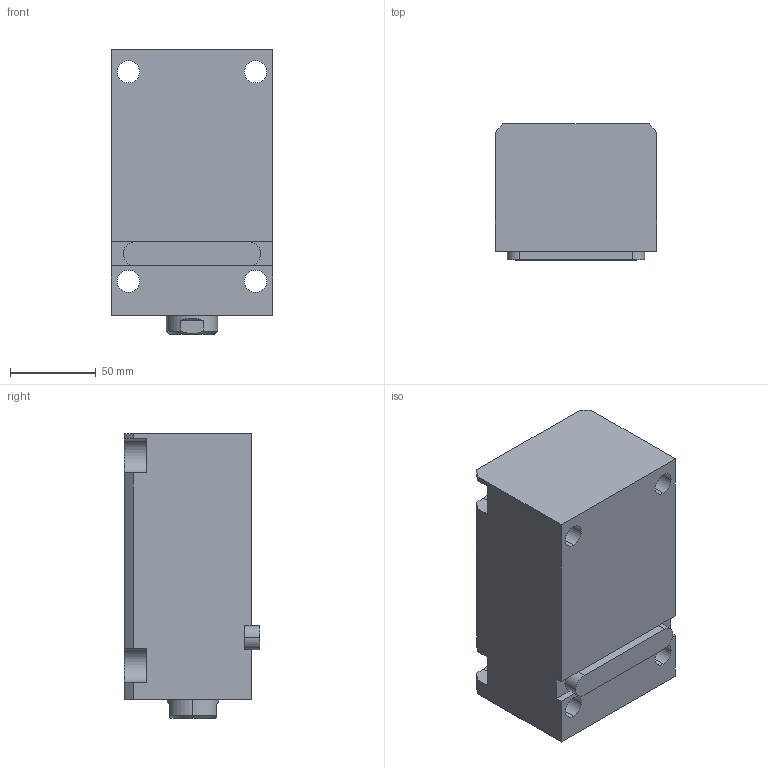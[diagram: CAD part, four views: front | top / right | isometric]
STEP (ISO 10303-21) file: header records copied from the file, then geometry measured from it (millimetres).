
FILE_DESCRIPTION (( 'STEP AP203' ), '1' );
FILE_NAME ('CHTB-LA50-95N.STEP', '2018-05-18T02:02:08', ( '' ), ( '' ), 'SwSTEP 2.0', 'SolidWorks 2015', '' );
FILE_SCHEMA (( 'CONFIG_CONTROL_DESIGN' ));
Length unit declared in the file: millimetre
Products named in the file (4): 活塞杆LA50-95N; CHTB-LA50-95N; 掛极LA50-95N; CHTM-SDMA50QG
Assembly tree (3 placements, depth 2):
  CHTB-LA50-95N
    掛极LA50-95N
    活塞杆LA50-95N
    CHTM-SDMA50QG
Bounding box: 94 x 79 x 166 mm (x, y, z)
Volume: 901847.5 mm3; surface area: 138881.3 mm2
Topology: 3 solids, 3 shells, 202 faces, 542 edges, 358 vertices
Faces by surface type: cylinder 96, plane 53, cone 23, torus 16, bspline 14
Entity records: 11255 total; most frequent: CARTESIAN_POINT 5992, ORIENTED_EDGE 1072, DIRECTION 958, EDGE_CURVE 536, AXIS2_PLACEMENT_3D 377, VERTEX_POINT 358, EDGE_LOOP 234, VECTOR 204
